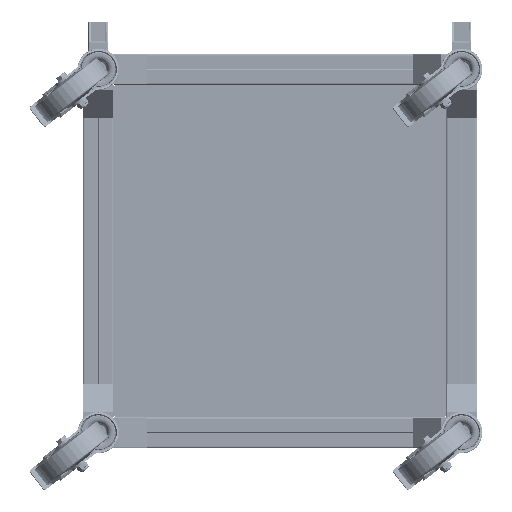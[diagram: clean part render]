
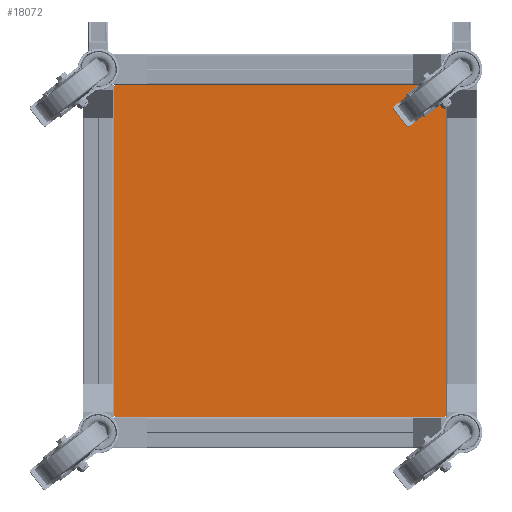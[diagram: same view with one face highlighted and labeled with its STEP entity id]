
A CAD part, front view. The second image highlights one B-rep face of the part: STEP entity #18072.
In plain terms, the highlighted planar face has unit normal (0, -1, 0).
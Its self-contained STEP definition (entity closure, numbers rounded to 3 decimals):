
#809 = VERTEX_POINT ( 'NONE', #132782 ) ;
#992 = EDGE_CURVE ( 'NONE', #57317, #22102, #67198, .T. ) ;
#3083 = ORIENTED_EDGE ( 'NONE', *, *, #139738, .F. ) ;
#3331 = VERTEX_POINT ( 'NONE', #66672 ) ;
#3535 = DIRECTION ( 'NONE',  ( 0., 0., -1. ) ) ;
#4350 = DIRECTION ( 'NONE',  ( 0., 0., -1. ) ) ;
#4770 = VECTOR ( 'NONE', #66514, 1000. ) ;
#4914 = VERTEX_POINT ( 'NONE', #64082 ) ;
#5084 = DIRECTION ( 'NONE',  ( 0., 0., -1. ) ) ;
#7250 = CARTESIAN_POINT ( 'NONE',  ( 209.5, 0., -209.5 ) ) ;
#8732 = LINE ( 'NONE', #7250, #4770 ) ;
#9333 = AXIS2_PLACEMENT_3D ( 'NONE', #19534, #112381, #54538 ) ;
#10425 = EDGE_CURVE ( 'NONE', #84432, #115140, #39326, .T. ) ;
#16467 = EDGE_LOOP ( 'NONE', ( #111310, #105570, #26307, #105797, #43503, #70135, #92548, #92202, #139511, #22668, #142316, #3083 ) ) ;
#17620 = LINE ( 'NONE', #112725, #101004 ) ;
#17964 = LINE ( 'NONE', #65855, #135364 ) ;
#18072 = ADVANCED_FACE ( 'NONE', ( #100981, #111647, #100213 ), #88793, .F. ) ;
#18524 = CARTESIAN_POINT ( 'NONE',  ( 205., 0., -216. ) ) ;
#19210 = CARTESIAN_POINT ( 'NONE',  ( 209.5, 0., -209.5 ) ) ;
#19534 = CARTESIAN_POINT ( 'NONE',  ( 0., 0., 0. ) ) ;
#21577 = VERTEX_POINT ( 'NONE', #142792 ) ;
#21600 = EDGE_CURVE ( 'NONE', #94513, #130414, #8732, .T. ) ;
#22005 = VERTEX_POINT ( 'NONE', #26887 ) ;
#22102 = VERTEX_POINT ( 'NONE', #99909 ) ;
#22668 = ORIENTED_EDGE ( 'NONE', *, *, #49839, .F. ) ;
#23547 = CARTESIAN_POINT ( 'NONE',  ( -209.5, 0., 219. ) ) ;
#24833 = DIRECTION ( 'NONE',  ( 0., 1., 0. ) ) ;
#25276 = CARTESIAN_POINT ( 'NONE',  ( -205., 0., -216. ) ) ;
#26307 = ORIENTED_EDGE ( 'NONE', *, *, #62243, .F. ) ;
#26887 = CARTESIAN_POINT ( 'NONE',  ( 209.5, 0., -219. ) ) ;
#27214 = ORIENTED_EDGE ( 'NONE', *, *, #56705, .T. ) ;
#28525 = LINE ( 'NONE', #130597, #124055 ) ;
#29252 = CARTESIAN_POINT ( 'NONE',  ( -205., 0., -214.5 ) ) ;
#30728 = DIRECTION ( 'NONE',  ( 0., 1., 0. ) ) ;
#36248 = CARTESIAN_POINT ( 'NONE',  ( 205., 0., -214.5 ) ) ;
#37350 = EDGE_CURVE ( 'NONE', #130414, #22005, #17964, .T. ) ;
#37667 = DIRECTION ( 'NONE',  ( 0., 0., -1. ) ) ;
#37807 = VERTEX_POINT ( 'NONE', #18524 ) ;
#38053 = VERTEX_POINT ( 'NONE', #51853 ) ;
#39326 = CIRCLE ( 'NONE', #119550, 1.5 ) ;
#39579 = DIRECTION ( 'NONE',  ( 0., 0., 1. ) ) ;
#39930 = DIRECTION ( 'NONE',  ( -1., 0., 0. ) ) ;
#42365 = CARTESIAN_POINT ( 'NONE',  ( 219., 0., 209.5 ) ) ;
#42399 = AXIS2_PLACEMENT_3D ( 'NONE', #36248, #24833, #3535 ) ;
#43304 = AXIS2_PLACEMENT_3D ( 'NONE', #29252, #30728, #124361 ) ;
#43503 = ORIENTED_EDGE ( 'NONE', *, *, #107100, .F. ) ;
#46361 = VECTOR ( 'NONE', #137035, 1000. ) ;
#46370 = EDGE_LOOP ( 'NONE', ( #27214, #74957 ) ) ;
#47785 = CARTESIAN_POINT ( 'NONE',  ( -209.5, 0., 219. ) ) ;
#48733 = LINE ( 'NONE', #59379, #65674 ) ;
#49839 = EDGE_CURVE ( 'NONE', #22102, #3331, #28525, .T. ) ;
#50762 = ORIENTED_EDGE ( 'NONE', *, *, #10425, .T. ) ;
#51853 = CARTESIAN_POINT ( 'NONE',  ( 209.5, 0., 219. ) ) ;
#53751 = CARTESIAN_POINT ( 'NONE',  ( 219., 0., -209.5 ) ) ;
#54538 = DIRECTION ( 'NONE',  ( 0., 0., 1. ) ) ;
#56705 = EDGE_CURVE ( 'NONE', #37807, #21577, #61886, .T. ) ;
#57317 = VERTEX_POINT ( 'NONE', #69177 ) ;
#57329 = LINE ( 'NONE', #140293, #114950 ) ;
#59379 = CARTESIAN_POINT ( 'NONE',  ( -219., 0., -209.5 ) ) ;
#61886 = CIRCLE ( 'NONE', #42399, 1.5 ) ;
#62027 = LINE ( 'NONE', #120647, #117190 ) ;
#62243 = EDGE_CURVE ( 'NONE', #93948, #94513, #17620, .T. ) ;
#64082 = CARTESIAN_POINT ( 'NONE',  ( -209.5, 0., 209.5 ) ) ;
#64638 = DIRECTION ( 'NONE',  ( 1., 0., 0. ) ) ;
#65674 = VECTOR ( 'NONE', #111052, 1000. ) ;
#65855 = CARTESIAN_POINT ( 'NONE',  ( 209.5, 0., -219. ) ) ;
#66514 = DIRECTION ( 'NONE',  ( -1., 0., 0. ) ) ;
#66672 = CARTESIAN_POINT ( 'NONE',  ( -219., 0., -209.5 ) ) ;
#67198 = LINE ( 'NONE', #136531, #113413 ) ;
#69177 = CARTESIAN_POINT ( 'NONE',  ( -209.5, 0., -219. ) ) ;
#69665 = LINE ( 'NONE', #92539, #94910 ) ;
#70135 = ORIENTED_EDGE ( 'NONE', *, *, #121086, .F. ) ;
#70779 = EDGE_CURVE ( 'NONE', #115140, #84432, #108978, .T. ) ;
#70974 = DIRECTION ( 'NONE',  ( 1., 0., 0. ) ) ;
#73825 = LINE ( 'NONE', #111108, #125280 ) ;
#74547 = EDGE_LOOP ( 'NONE', ( #139746, #50762 ) ) ;
#74957 = ORIENTED_EDGE ( 'NONE', *, *, #122419, .T. ) ;
#75151 = EDGE_CURVE ( 'NONE', #3331, #120139, #48733, .T. ) ;
#75339 = DIRECTION ( 'NONE',  ( 0., 1., 0. ) ) ;
#79598 = CARTESIAN_POINT ( 'NONE',  ( -205., 0., -213. ) ) ;
#80649 = LINE ( 'NONE', #23547, #46361 ) ;
#84432 = VERTEX_POINT ( 'NONE', #79598 ) ;
#85501 = AXIS2_PLACEMENT_3D ( 'NONE', #108599, #119298, #4350 ) ;
#88793 = PLANE ( 'NONE',  #9333 ) ;
#92202 = ORIENTED_EDGE ( 'NONE', *, *, #124071, .F. ) ;
#92539 = CARTESIAN_POINT ( 'NONE',  ( 209.5, 0., 219. ) ) ;
#92548 = ORIENTED_EDGE ( 'NONE', *, *, #106595, .F. ) ;
#93340 = EDGE_CURVE ( 'NONE', #138976, #93948, #73825, .T. ) ;
#93468 = DIRECTION ( 'NONE',  ( 0., 0., 1. ) ) ;
#93529 = CARTESIAN_POINT ( 'NONE',  ( 209.5, 0., 209.5 ) ) ;
#93948 = VERTEX_POINT ( 'NONE', #42365 ) ;
#94513 = VERTEX_POINT ( 'NONE', #53751 ) ;
#94910 = VECTOR ( 'NONE', #37667, 1000. ) ;
#95175 = CIRCLE ( 'NONE', #85501, 1.5 ) ;
#99696 = VECTOR ( 'NONE', #93468, 1000. ) ;
#99909 = CARTESIAN_POINT ( 'NONE',  ( -209.5, 0., -209.5 ) ) ;
#100213 = FACE_BOUND ( 'NONE', #46370, .T. ) ;
#100981 = FACE_OUTER_BOUND ( 'NONE', #16467, .T. ) ;
#101004 = VECTOR ( 'NONE', #132594, 1000. ) ;
#105570 = ORIENTED_EDGE ( 'NONE', *, *, #21600, .F. ) ;
#105797 = ORIENTED_EDGE ( 'NONE', *, *, #93340, .F. ) ;
#106595 = EDGE_CURVE ( 'NONE', #4914, #809, #139917, .T. ) ;
#107100 = EDGE_CURVE ( 'NONE', #38053, #138976, #69665, .T. ) ;
#108465 = DIRECTION ( 'NONE',  ( -1., 0., 0. ) ) ;
#108599 = CARTESIAN_POINT ( 'NONE',  ( 205., 0., -214.5 ) ) ;
#108978 = CIRCLE ( 'NONE', #43304, 1.5 ) ;
#111052 = DIRECTION ( 'NONE',  ( 0., 0., 1. ) ) ;
#111108 = CARTESIAN_POINT ( 'NONE',  ( 209.5, 0., 209.5 ) ) ;
#111310 = ORIENTED_EDGE ( 'NONE', *, *, #37350, .F. ) ;
#111647 = FACE_BOUND ( 'NONE', #74547, .T. ) ;
#112381 = DIRECTION ( 'NONE',  ( 0., 1., 0. ) ) ;
#112725 = CARTESIAN_POINT ( 'NONE',  ( 219., 0., -209.5 ) ) ;
#113413 = VECTOR ( 'NONE', #122100, 1000. ) ;
#114950 = VECTOR ( 'NONE', #70974, 1000. ) ;
#115140 = VERTEX_POINT ( 'NONE', #25276 ) ;
#117190 = VECTOR ( 'NONE', #108465, 1000. ) ;
#119298 = DIRECTION ( 'NONE',  ( 0., 1., 0. ) ) ;
#119550 = AXIS2_PLACEMENT_3D ( 'NONE', #134712, #75339, #39579 ) ;
#120139 = VERTEX_POINT ( 'NONE', #121640 ) ;
#120647 = CARTESIAN_POINT ( 'NONE',  ( -209.5, 0., -219. ) ) ;
#121086 = EDGE_CURVE ( 'NONE', #809, #38053, #80649, .T. ) ;
#121640 = CARTESIAN_POINT ( 'NONE',  ( -219., 0., 209.5 ) ) ;
#122100 = DIRECTION ( 'NONE',  ( 0., 0., 1. ) ) ;
#122419 = EDGE_CURVE ( 'NONE', #21577, #37807, #95175, .T. ) ;
#124055 = VECTOR ( 'NONE', #39930, 1000. ) ;
#124071 = EDGE_CURVE ( 'NONE', #120139, #4914, #57329, .T. ) ;
#124361 = DIRECTION ( 'NONE',  ( 0., 0., 1. ) ) ;
#125280 = VECTOR ( 'NONE', #64638, 1000. ) ;
#130414 = VERTEX_POINT ( 'NONE', #19210 ) ;
#130597 = CARTESIAN_POINT ( 'NONE',  ( -209.5, 0., -209.5 ) ) ;
#132594 = DIRECTION ( 'NONE',  ( 0., 0., -1. ) ) ;
#132782 = CARTESIAN_POINT ( 'NONE',  ( -209.5, 0., 219. ) ) ;
#134712 = CARTESIAN_POINT ( 'NONE',  ( -205., 0., -214.5 ) ) ;
#135364 = VECTOR ( 'NONE', #5084, 1000. ) ;
#136531 = CARTESIAN_POINT ( 'NONE',  ( -209.5, 0., -219. ) ) ;
#137035 = DIRECTION ( 'NONE',  ( 1., 0., 0. ) ) ;
#138976 = VERTEX_POINT ( 'NONE', #93529 ) ;
#139511 = ORIENTED_EDGE ( 'NONE', *, *, #75151, .F. ) ;
#139738 = EDGE_CURVE ( 'NONE', #22005, #57317, #62027, .T. ) ;
#139746 = ORIENTED_EDGE ( 'NONE', *, *, #70779, .T. ) ;
#139917 = LINE ( 'NONE', #47785, #99696 ) ;
#140293 = CARTESIAN_POINT ( 'NONE',  ( -209.5, 0., 209.5 ) ) ;
#142316 = ORIENTED_EDGE ( 'NONE', *, *, #992, .F. ) ;
#142792 = CARTESIAN_POINT ( 'NONE',  ( 205., 0., -213. ) ) ;
